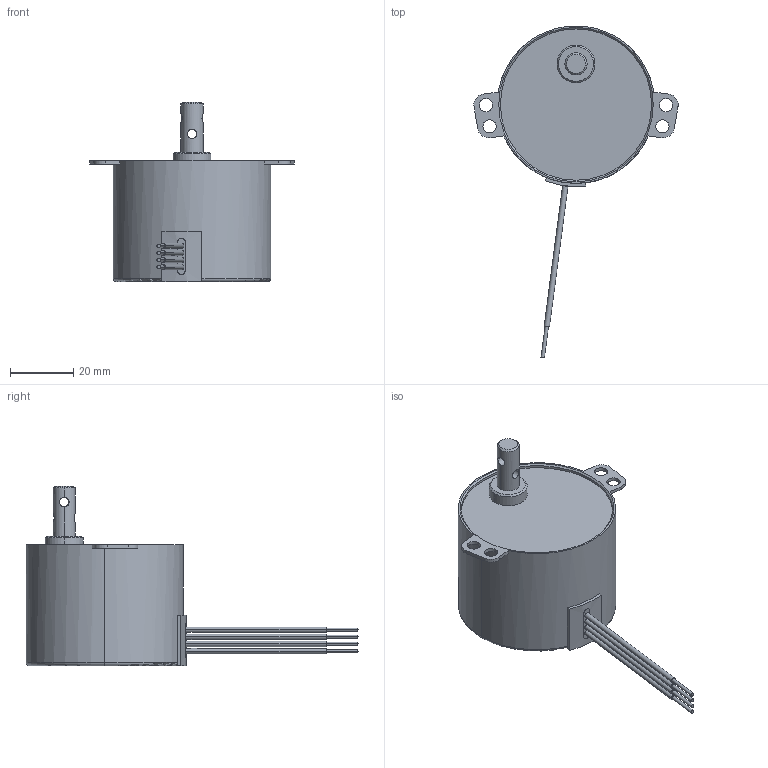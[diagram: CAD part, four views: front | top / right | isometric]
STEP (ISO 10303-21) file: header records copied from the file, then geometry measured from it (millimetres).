
FILE_DESCRIPTION (( 'STEP AP214' ), '1' );
FILE_NAME ('ACPMGM-050-038.STEP', '2009-05-18T21:21:39', ( 'Tim Raines' ), ( 'Anaheim Automation' ), 'SwSTEP 2.0', 'SolidWorks 2009', '' );
FILE_SCHEMA (( 'AUTOMOTIVE_DESIGN' ));
Length unit declared in the file: millimetre
Products named in the file (1): ACPMGM-050-038
Bounding box: 64.85 x 105.38 x 56.9 mm (x, y, z)
Volume: 74811.1 mm3; surface area: 12168.8 mm2
Topology: 1 solids, 1 shells, 87 faces, 213 edges, 138 vertices
Faces by surface type: cylinder 47, plane 28, cone 10, torus 2
Entity records: 3740 total; most frequent: CARTESIAN_POINT 663, DIRECTION 467, ORIENTED_EDGE 426, EDGE_CURVE 213, AXIS2_PLACEMENT_3D 190, VERTEX_POINT 138, EDGE_LOOP 109, CIRCLE 102
